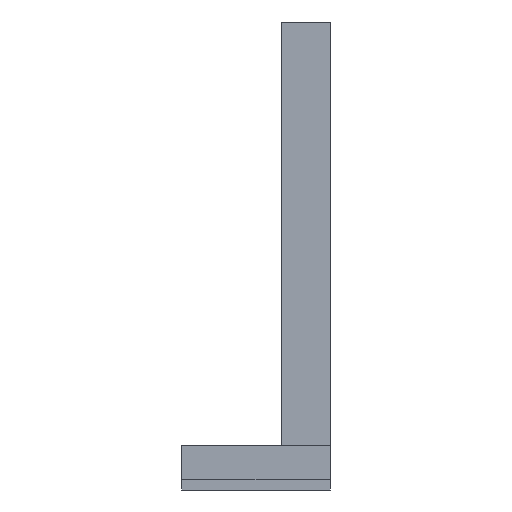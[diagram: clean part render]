
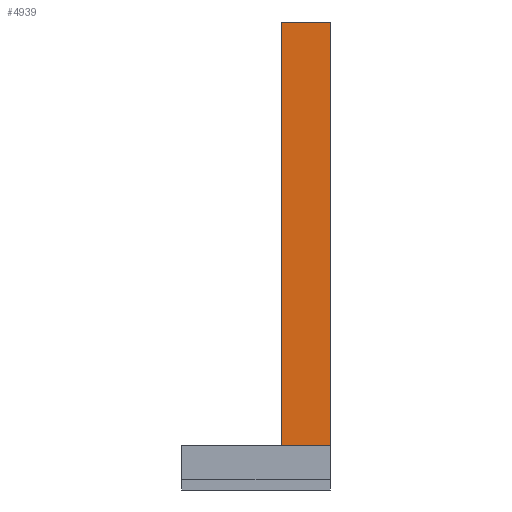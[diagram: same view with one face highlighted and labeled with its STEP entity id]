
A CAD part, left-side view. The second image highlights one B-rep face of the part: STEP entity #4939.
In plain terms, the highlighted planar face has unit normal (-1, 0, 0).
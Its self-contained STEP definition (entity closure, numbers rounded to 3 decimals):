
#44 = PLANE('',#45);
#45 = AXIS2_PLACEMENT_3D('',#46,#47,#48);
#46 = CARTESIAN_POINT('',(-127.,-21.825,0.));
#47 = DIRECTION('',(0.,1.,0.));
#48 = DIRECTION('',(0.,0.,1.));
#301 = VERTEX_POINT('',#302);
#302 = CARTESIAN_POINT('',(-73.9,-21.825,13.));
#316 = PLANE('',#317);
#317 = AXIS2_PLACEMENT_3D('',#318,#319,#320);
#318 = CARTESIAN_POINT('',(-107.,-21.825,13.));
#319 = DIRECTION('',(0.,0.,1.));
#320 = DIRECTION('',(1.,0.,0.));
#328 = EDGE_CURVE('',#301,#329,#331,.T.);
#329 = VERTEX_POINT('',#330);
#330 = CARTESIAN_POINT('',(-73.9,-21.825,137.2));
#331 = SURFACE_CURVE('',#332,(#336,#343),.PCURVE_S1.);
#332 = LINE('',#333,#334);
#333 = CARTESIAN_POINT('',(-73.9,-21.825,3.));
#334 = VECTOR('',#335,1.);
#335 = DIRECTION('',(0.,0.,1.));
#336 = PCURVE('',#44,#337);
#337 = DEFINITIONAL_REPRESENTATION('',(#338),#342);
#338 = LINE('',#339,#340);
#339 = CARTESIAN_POINT('',(3.,53.1));
#340 = VECTOR('',#341,1.);
#341 = DIRECTION('',(1.,0.));
#342 = ( GEOMETRIC_REPRESENTATION_CONTEXT(2) 
PARAMETRIC_REPRESENTATION_CONTEXT() REPRESENTATION_CONTEXT('2D SPACE',''
  ) );
#343 = PCURVE('',#344,#349);
#344 = PLANE('',#345);
#345 = AXIS2_PLACEMENT_3D('',#346,#347,#348);
#346 = CARTESIAN_POINT('',(-73.9,-21.825,3.));
#347 = DIRECTION('',(1.,0.,0.));
#348 = DIRECTION('',(0.,0.,1.));
#349 = DEFINITIONAL_REPRESENTATION('',(#350),#354);
#350 = LINE('',#351,#352);
#351 = CARTESIAN_POINT('',(0.,0.));
#352 = VECTOR('',#353,1.);
#353 = DIRECTION('',(1.,0.));
#354 = ( GEOMETRIC_REPRESENTATION_CONTEXT(2) 
PARAMETRIC_REPRESENTATION_CONTEXT() REPRESENTATION_CONTEXT('2D SPACE',''
  ) );
#372 = PLANE('',#373);
#373 = AXIS2_PLACEMENT_3D('',#374,#375,#376);
#374 = CARTESIAN_POINT('',(-73.9,-21.825,137.2));
#375 = DIRECTION('',(0.,0.,1.));
#376 = DIRECTION('',(1.,0.,0.));
#4352 = VERTEX_POINT('',#4353);
#4353 = CARTESIAN_POINT('',(-73.9,-19.425,13.));
#4367 = PLANE('',#4368);
#4368 = AXIS2_PLACEMENT_3D('',#4369,#4370,#4371);
#4369 = CARTESIAN_POINT('',(-107.,-19.425,3.));
#4370 = DIRECTION('',(0.,1.,0.));
#4371 = DIRECTION('',(0.,0.,1.));
#4536 = EDGE_CURVE('',#301,#4352,#4537,.T.);
#4537 = SURFACE_CURVE('',#4538,(#4542,#4548),.PCURVE_S1.);
#4538 = LINE('',#4539,#4540);
#4539 = CARTESIAN_POINT('',(-73.9,-21.825,13.));
#4540 = VECTOR('',#4541,1.);
#4541 = DIRECTION('',(0.,1.,0.));
#4542 = PCURVE('',#316,#4543);
#4543 = DEFINITIONAL_REPRESENTATION('',(#4544),#4547);
#4544 = B_SPLINE_CURVE_WITH_KNOTS('',1,(#4545,#4546),.UNSPECIFIED.,.F.,
  .F.,(2,2),(0.,2.4),.PIECEWISE_BEZIER_KNOTS.);
#4545 = CARTESIAN_POINT('',(33.1,0.));
#4546 = CARTESIAN_POINT('',(33.1,2.4));
#4547 = ( GEOMETRIC_REPRESENTATION_CONTEXT(2) 
PARAMETRIC_REPRESENTATION_CONTEXT() REPRESENTATION_CONTEXT('2D SPACE',''
  ) );
#4548 = PCURVE('',#344,#4549);
#4549 = DEFINITIONAL_REPRESENTATION('',(#4550),#4554);
#4550 = LINE('',#4551,#4552);
#4551 = CARTESIAN_POINT('',(10.,0.));
#4552 = VECTOR('',#4553,1.);
#4553 = DIRECTION('',(0.,-1.));
#4554 = ( GEOMETRIC_REPRESENTATION_CONTEXT(2) 
PARAMETRIC_REPRESENTATION_CONTEXT() REPRESENTATION_CONTEXT('2D SPACE',''
  ) );
#4606 = PLANE('',#4607);
#4607 = AXIS2_PLACEMENT_3D('',#4608,#4609,#4610);
#4608 = CARTESIAN_POINT('',(-127.,-21.825,3.));
#4609 = DIRECTION('',(0.,0.,1.));
#4610 = DIRECTION('',(1.,0.,0.));
#4869 = VERTEX_POINT('',#4870);
#4870 = CARTESIAN_POINT('',(-73.9,-7.425,137.2));
#4884 = PLANE('',#4885);
#4885 = AXIS2_PLACEMENT_3D('',#4886,#4887,#4888);
#4886 = CARTESIAN_POINT('',(-73.9,-7.425,3.));
#4887 = DIRECTION('',(0.,1.,0.));
#4888 = DIRECTION('',(0.,0.,1.));
#4896 = EDGE_CURVE('',#4869,#329,#4897,.T.);
#4897 = SURFACE_CURVE('',#4898,(#4902,#4909),.PCURVE_S1.);
#4898 = LINE('',#4899,#4900);
#4899 = CARTESIAN_POINT('',(-73.9,-7.425,137.2));
#4900 = VECTOR('',#4901,1.);
#4901 = DIRECTION('',(0.,-1.,0.));
#4902 = PCURVE('',#372,#4903);
#4903 = DEFINITIONAL_REPRESENTATION('',(#4904),#4908);
#4904 = LINE('',#4905,#4906);
#4905 = CARTESIAN_POINT('',(0.,14.4));
#4906 = VECTOR('',#4907,1.);
#4907 = DIRECTION('',(0.,-1.));
#4908 = ( GEOMETRIC_REPRESENTATION_CONTEXT(2) 
PARAMETRIC_REPRESENTATION_CONTEXT() REPRESENTATION_CONTEXT('2D SPACE',''
  ) );
#4909 = PCURVE('',#344,#4910);
#4910 = DEFINITIONAL_REPRESENTATION('',(#4911),#4915);
#4911 = LINE('',#4912,#4913);
#4912 = CARTESIAN_POINT('',(134.2,-14.4));
#4913 = VECTOR('',#4914,1.);
#4914 = DIRECTION('',(0.,1.));
#4915 = ( GEOMETRIC_REPRESENTATION_CONTEXT(2) 
PARAMETRIC_REPRESENTATION_CONTEXT() REPRESENTATION_CONTEXT('2D SPACE',''
  ) );
#4939 = ADVANCED_FACE('',(#4940),#344,.F.);
#4940 = FACE_BOUND('',#4941,.F.);
#4941 = EDGE_LOOP('',(#4942,#4943,#4944,#4966,#4989,#5010));
#4942 = ORIENTED_EDGE('',*,*,#328,.F.);
#4943 = ORIENTED_EDGE('',*,*,#4536,.T.);
#4944 = ORIENTED_EDGE('',*,*,#4945,.T.);
#4945 = EDGE_CURVE('',#4352,#4946,#4948,.T.);
#4946 = VERTEX_POINT('',#4947);
#4947 = CARTESIAN_POINT('',(-73.9,-19.425,3.));
#4948 = SURFACE_CURVE('',#4949,(#4953,#4960),.PCURVE_S1.);
#4949 = LINE('',#4950,#4951);
#4950 = CARTESIAN_POINT('',(-73.9,-19.425,3.));
#4951 = VECTOR('',#4952,1.);
#4952 = DIRECTION('',(0.,0.,-1.));
#4953 = PCURVE('',#344,#4954);
#4954 = DEFINITIONAL_REPRESENTATION('',(#4955),#4959);
#4955 = LINE('',#4956,#4957);
#4956 = CARTESIAN_POINT('',(0.,-2.4));
#4957 = VECTOR('',#4958,1.);
#4958 = DIRECTION('',(-1.,0.));
#4959 = ( GEOMETRIC_REPRESENTATION_CONTEXT(2) 
PARAMETRIC_REPRESENTATION_CONTEXT() REPRESENTATION_CONTEXT('2D SPACE',''
  ) );
#4960 = PCURVE('',#4367,#4961);
#4961 = DEFINITIONAL_REPRESENTATION('',(#4962),#4965);
#4962 = B_SPLINE_CURVE_WITH_KNOTS('',1,(#4963,#4964),.UNSPECIFIED.,.F.,
  .F.,(2,2),(-134.2,0.),.PIECEWISE_BEZIER_KNOTS.);
#4963 = CARTESIAN_POINT('',(134.2,33.1));
#4964 = CARTESIAN_POINT('',(0.,33.1));
#4965 = ( GEOMETRIC_REPRESENTATION_CONTEXT(2) 
PARAMETRIC_REPRESENTATION_CONTEXT() REPRESENTATION_CONTEXT('2D SPACE',''
  ) );
#4966 = ORIENTED_EDGE('',*,*,#4967,.T.);
#4967 = EDGE_CURVE('',#4946,#4968,#4970,.T.);
#4968 = VERTEX_POINT('',#4969);
#4969 = CARTESIAN_POINT('',(-73.9,-7.425,3.));
#4970 = SURFACE_CURVE('',#4971,(#4975,#4982),.PCURVE_S1.);
#4971 = LINE('',#4972,#4973);
#4972 = CARTESIAN_POINT('',(-73.9,-21.825,3.));
#4973 = VECTOR('',#4974,1.);
#4974 = DIRECTION('',(0.,1.,0.));
#4975 = PCURVE('',#344,#4976);
#4976 = DEFINITIONAL_REPRESENTATION('',(#4977),#4981);
#4977 = LINE('',#4978,#4979);
#4978 = CARTESIAN_POINT('',(0.,0.));
#4979 = VECTOR('',#4980,1.);
#4980 = DIRECTION('',(0.,-1.));
#4981 = ( GEOMETRIC_REPRESENTATION_CONTEXT(2) 
PARAMETRIC_REPRESENTATION_CONTEXT() REPRESENTATION_CONTEXT('2D SPACE',''
  ) );
#4982 = PCURVE('',#4606,#4983);
#4983 = DEFINITIONAL_REPRESENTATION('',(#4984),#4988);
#4984 = LINE('',#4985,#4986);
#4985 = CARTESIAN_POINT('',(53.1,0.));
#4986 = VECTOR('',#4987,1.);
#4987 = DIRECTION('',(0.,1.));
#4988 = ( GEOMETRIC_REPRESENTATION_CONTEXT(2) 
PARAMETRIC_REPRESENTATION_CONTEXT() REPRESENTATION_CONTEXT('2D SPACE',''
  ) );
#4989 = ORIENTED_EDGE('',*,*,#4990,.T.);
#4990 = EDGE_CURVE('',#4968,#4869,#4991,.T.);
#4991 = SURFACE_CURVE('',#4992,(#4996,#5003),.PCURVE_S1.);
#4992 = LINE('',#4993,#4994);
#4993 = CARTESIAN_POINT('',(-73.9,-7.425,3.));
#4994 = VECTOR('',#4995,1.);
#4995 = DIRECTION('',(0.,0.,1.));
#4996 = PCURVE('',#344,#4997);
#4997 = DEFINITIONAL_REPRESENTATION('',(#4998),#5002);
#4998 = LINE('',#4999,#5000);
#4999 = CARTESIAN_POINT('',(0.,-14.4));
#5000 = VECTOR('',#5001,1.);
#5001 = DIRECTION('',(1.,0.));
#5002 = ( GEOMETRIC_REPRESENTATION_CONTEXT(2) 
PARAMETRIC_REPRESENTATION_CONTEXT() REPRESENTATION_CONTEXT('2D SPACE',''
  ) );
#5003 = PCURVE('',#4884,#5004);
#5004 = DEFINITIONAL_REPRESENTATION('',(#5005),#5009);
#5005 = LINE('',#5006,#5007);
#5006 = CARTESIAN_POINT('',(0.,0.));
#5007 = VECTOR('',#5008,1.);
#5008 = DIRECTION('',(1.,0.));
#5009 = ( GEOMETRIC_REPRESENTATION_CONTEXT(2) 
PARAMETRIC_REPRESENTATION_CONTEXT() REPRESENTATION_CONTEXT('2D SPACE',''
  ) );
#5010 = ORIENTED_EDGE('',*,*,#4896,.T.);
